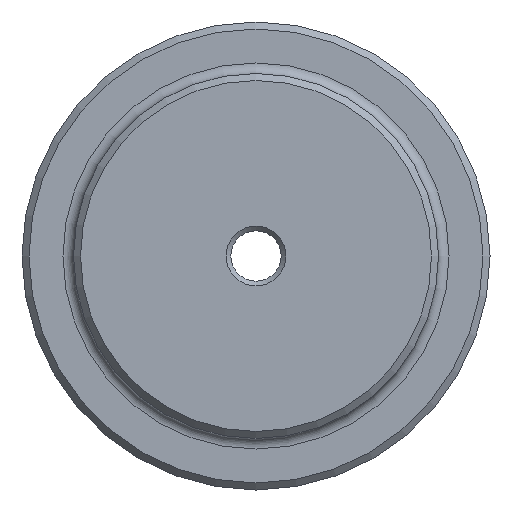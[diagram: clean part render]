
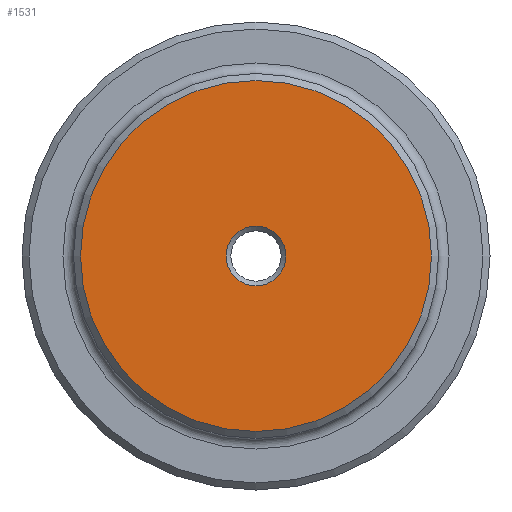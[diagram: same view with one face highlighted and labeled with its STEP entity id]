
A CAD part, left-side view. The second image highlights one B-rep face of the part: STEP entity #1531.
In plain terms, the highlighted planar face has unit normal (-1, 0, 0).
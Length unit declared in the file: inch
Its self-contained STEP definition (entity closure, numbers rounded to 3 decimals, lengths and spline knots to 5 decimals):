
#5 = DIRECTION ( 'NONE',  ( 0., 0., -1. ) ) ;
#50 = CARTESIAN_POINT ( 'NONE',  ( 0., 0., -1.5 ) ) ;
#172 = DIRECTION ( 'NONE',  ( 0., 0., -1. ) ) ;
#456 = DIRECTION ( 'NONE',  ( -1., 0., 0. ) ) ;
#478 = CIRCLE ( 'NONE', #1541, 1.5 ) ;
#547 = VERTEX_POINT ( 'NONE', #50 ) ;
#577 = CARTESIAN_POINT ( 'NONE',  ( 0., 0., 0. ) ) ;
#587 = DIRECTION ( 'NONE',  ( 1., 0., 0. ) ) ;
#593 = EDGE_LOOP ( 'NONE', ( #1244 ) ) ;
#636 = CARTESIAN_POINT ( 'NONE',  ( 0., 0., 0. ) ) ;
#673 = AXIS2_PLACEMENT_3D ( 'NONE', #1662, #587, #172 ) ;
#838 = CIRCLE ( 'NONE', #673, 0.255 ) ;
#866 = EDGE_CURVE ( 'NONE', #1366, #1366, #838, .T. ) ;
#881 = DIRECTION ( 'NONE',  ( 1., 0., 0. ) ) ;
#941 = CARTESIAN_POINT ( 'NONE',  ( 0., 0., -0.255 ) ) ;
#1035 = FACE_BOUND ( 'NONE', #1289, .T. ) ;
#1107 = ORIENTED_EDGE ( 'NONE', *, *, #866, .T. ) ;
#1233 = AXIS2_PLACEMENT_3D ( 'NONE', #636, #881, #5 ) ;
#1244 = ORIENTED_EDGE ( 'NONE', *, *, #1757, .T. ) ;
#1289 = EDGE_LOOP ( 'NONE', ( #1107 ) ) ;
#1366 = VERTEX_POINT ( 'NONE', #941 ) ;
#1531 = ADVANCED_FACE ( 'NONE', ( #1035, #1749 ), #1609, .F. ) ;
#1541 = AXIS2_PLACEMENT_3D ( 'NONE', #577, #456, #1806 ) ;
#1609 = PLANE ( 'NONE',  #1233 ) ;
#1662 = CARTESIAN_POINT ( 'NONE',  ( 0., 0., 0. ) ) ;
#1749 = FACE_OUTER_BOUND ( 'NONE', #593, .T. ) ;
#1757 = EDGE_CURVE ( 'NONE', #547, #547, #478, .T. ) ;
#1806 = DIRECTION ( 'NONE',  ( 0., 0., -1. ) ) ;
